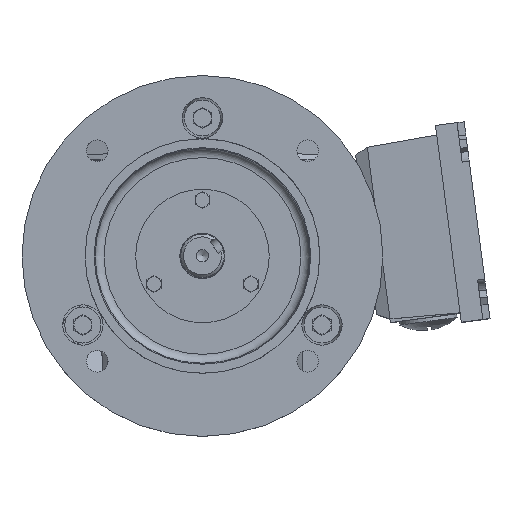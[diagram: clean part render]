
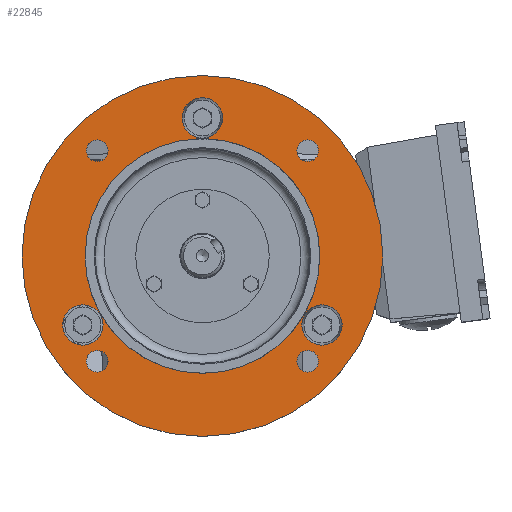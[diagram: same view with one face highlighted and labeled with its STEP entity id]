
A CAD part, top view. The second image highlights one B-rep face of the part: STEP entity #22845.
In plain terms, the highlighted planar face has unit normal (0, 0, 1) as drawn and (-1, 0, 0) by its records, which use the part's own axes.
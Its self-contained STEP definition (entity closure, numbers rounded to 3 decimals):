
#784=PLANE('',#25081);
#1033=FACE_BOUND('',#3939,.T.);
#1034=FACE_BOUND('',#3940,.T.);
#1035=FACE_BOUND('',#3941,.T.);
#1036=FACE_BOUND('',#3942,.T.);
#1037=FACE_BOUND('',#3943,.T.);
#1038=FACE_BOUND('',#3944,.T.);
#1039=FACE_BOUND('',#3945,.T.);
#1040=FACE_BOUND('',#3946,.T.);
#2532=FACE_OUTER_BOUND('',#3938,.T.);
#3938=EDGE_LOOP('',(#20500));
#3939=EDGE_LOOP('',(#20501));
#3940=EDGE_LOOP('',(#20502));
#3941=EDGE_LOOP('',(#20503));
#3942=EDGE_LOOP('',(#20504));
#3943=EDGE_LOOP('',(#20505));
#3944=EDGE_LOOP('',(#20506));
#3945=EDGE_LOOP('',(#20507));
#3946=EDGE_LOOP('',(#20508));
#8970=CIRCLE('',#24999,6.);
#8972=CIRCLE('',#25002,6.);
#8974=CIRCLE('',#25005,6.);
#8976=CIRCLE('',#25008,6.);
#8978=CIRCLE('',#25011,11.185);
#8980=CIRCLE('',#25014,11.185);
#8986=CIRCLE('',#25023,11.185);
#8994=CIRCLE('',#25034,65.);
#8996=CIRCLE('',#25037,100.);
#11009=VERTEX_POINT('',#116458);
#11011=VERTEX_POINT('',#116464);
#11013=VERTEX_POINT('',#116470);
#11015=VERTEX_POINT('',#116476);
#11017=VERTEX_POINT('',#116482);
#11019=VERTEX_POINT('',#116488);
#11025=VERTEX_POINT('',#116506);
#11036=VERTEX_POINT('',#116559);
#11038=VERTEX_POINT('',#116579);
#14174=EDGE_CURVE('',#11009,#11009,#8970,.T.);
#14177=EDGE_CURVE('',#11011,#11011,#8972,.T.);
#14180=EDGE_CURVE('',#11013,#11013,#8974,.T.);
#14183=EDGE_CURVE('',#11015,#11015,#8976,.T.);
#14186=EDGE_CURVE('',#11017,#11017,#8978,.T.);
#14189=EDGE_CURVE('',#11019,#11019,#8980,.T.);
#14198=EDGE_CURVE('',#11025,#11025,#8986,.T.);
#14211=EDGE_CURVE('',#11036,#11036,#8994,.T.);
#14214=EDGE_CURVE('',#11038,#11038,#8996,.T.);
#20500=ORIENTED_EDGE('',*,*,#14214,.T.);
#20501=ORIENTED_EDGE('',*,*,#14211,.F.);
#20502=ORIENTED_EDGE('',*,*,#14174,.F.);
#20503=ORIENTED_EDGE('',*,*,#14177,.F.);
#20504=ORIENTED_EDGE('',*,*,#14180,.F.);
#20505=ORIENTED_EDGE('',*,*,#14183,.F.);
#20506=ORIENTED_EDGE('',*,*,#14186,.F.);
#20507=ORIENTED_EDGE('',*,*,#14189,.F.);
#20508=ORIENTED_EDGE('',*,*,#14198,.F.);
#22845=ADVANCED_FACE('',(#2532,#1033,#1034,#1035,#1036,#1037,#1038,#1039,
#1040),#784,.T.);
#24999=AXIS2_PLACEMENT_3D('',#116460,#30821,#30822);
#25002=AXIS2_PLACEMENT_3D('',#116466,#30828,#30829);
#25005=AXIS2_PLACEMENT_3D('',#116472,#30835,#30836);
#25008=AXIS2_PLACEMENT_3D('',#116478,#30842,#30843);
#25011=AXIS2_PLACEMENT_3D('',#116484,#30849,#30850);
#25014=AXIS2_PLACEMENT_3D('',#116490,#30856,#30857);
#25023=AXIS2_PLACEMENT_3D('',#116508,#30877,#30878);
#25034=AXIS2_PLACEMENT_3D('',#116561,#30902,#30903);
#25037=AXIS2_PLACEMENT_3D('',#116580,#30908,#30909);
#25081=AXIS2_PLACEMENT_3D('',#116702,#31028,#31029);
#30821=DIRECTION('center_axis',(-1.,0.,0.));
#30822=DIRECTION('ref_axis',(0.,0.,1.));
#30828=DIRECTION('center_axis',(-1.,0.,0.));
#30829=DIRECTION('ref_axis',(0.,0.,1.));
#30835=DIRECTION('center_axis',(-1.,0.,0.));
#30836=DIRECTION('ref_axis',(0.,0.,1.));
#30842=DIRECTION('center_axis',(-1.,0.,0.));
#30843=DIRECTION('ref_axis',(0.,0.,1.));
#30849=DIRECTION('center_axis',(-1.,0.,0.));
#30850=DIRECTION('ref_axis',(0.,0.,1.));
#30856=DIRECTION('center_axis',(-1.,0.,0.));
#30857=DIRECTION('ref_axis',(0.,0.,1.));
#30877=DIRECTION('center_axis',(-1.,0.,0.));
#30878=DIRECTION('ref_axis',(0.,0.,1.));
#30902=DIRECTION('center_axis',(-1.,0.,0.));
#30903=DIRECTION('ref_axis',(0.,0.,1.));
#30908=DIRECTION('center_axis',(-1.,0.,0.));
#30909=DIRECTION('ref_axis',(0.,0.,1.));
#31028=DIRECTION('center_axis',(-1.,0.,0.));
#31029=DIRECTION('ref_axis',(0.,0.,1.));
#116458=CARTESIAN_POINT('',(3.736,58.336,-64.336));
#116460=CARTESIAN_POINT('Origin',(3.736,58.336,-58.336));
#116464=CARTESIAN_POINT('',(3.736,-58.336,-64.336));
#116466=CARTESIAN_POINT('Origin',(3.736,-58.336,-58.336));
#116470=CARTESIAN_POINT('',(3.736,-58.336,52.336));
#116472=CARTESIAN_POINT('Origin',(3.736,-58.336,58.336));
#116476=CARTESIAN_POINT('',(3.736,58.336,52.336));
#116478=CARTESIAN_POINT('Origin',(3.736,58.336,58.336));
#116482=CARTESIAN_POINT('',(3.736,-28.563,71.844));
#116484=CARTESIAN_POINT('Origin',(3.736,-38.25,66.251));
#116488=CARTESIAN_POINT('',(3.736,-47.937,-60.658));
#116490=CARTESIAN_POINT('Origin',(3.736,-38.25,-66.251));
#116506=CARTESIAN_POINT('',(3.736,76.5,-11.185));
#116508=CARTESIAN_POINT('Origin',(3.736,76.5,0.));
#116559=CARTESIAN_POINT('',(3.736,0.,-65.));
#116561=CARTESIAN_POINT('Origin',(3.736,0.,0.));
#116579=CARTESIAN_POINT('',(3.736,0.,-100.));
#116580=CARTESIAN_POINT('Origin',(3.736,0.,0.));
#116702=CARTESIAN_POINT('Origin',(3.736,-65.,0.));
